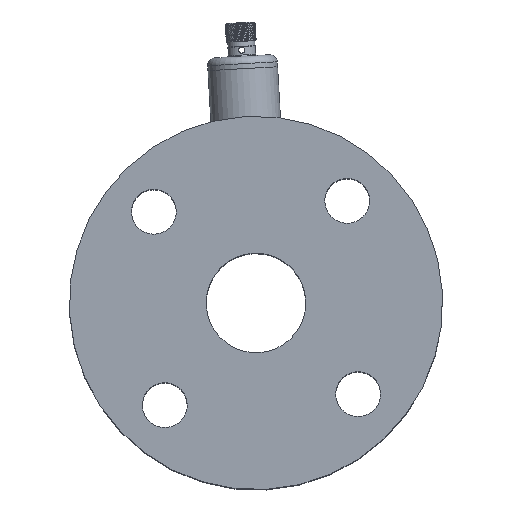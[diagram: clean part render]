
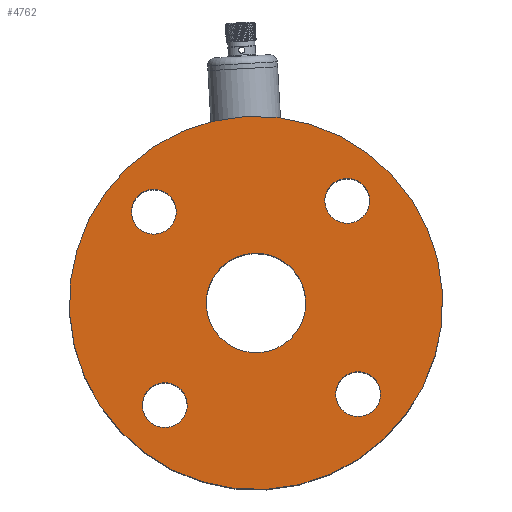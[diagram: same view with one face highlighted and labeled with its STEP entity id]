
A CAD part, top view. The second image highlights one B-rep face of the part: STEP entity #4762.
In plain terms, the highlighted planar face has unit normal (0, 0, 1).
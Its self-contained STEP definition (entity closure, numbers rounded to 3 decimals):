
#24 = AXIS2_PLACEMENT_3D ( 'NONE', #7111, #5321, #9101 ) ;
#119 = DIRECTION ( 'NONE',  ( 1., 0., 0. ) ) ;
#260 = EDGE_CURVE ( 'NONE', #7453, #4990, #9196, .T. ) ;
#279 = EDGE_CURVE ( 'NONE', #7266, #843, #7599, .T. ) ;
#552 = VERTEX_POINT ( 'NONE', #8678 ) ;
#565 = EDGE_CURVE ( 'NONE', #843, #7266, #5622, .T. ) ;
#657 = EDGE_CURVE ( 'NONE', #3826, #1299, #5827, .T. ) ;
#843 = VERTEX_POINT ( 'NONE', #3448 ) ;
#851 = CIRCLE ( 'NONE', #5844, 20. ) ;
#991 = CARTESIAN_POINT ( 'NONE',  ( -20., 0., 70. ) ) ;
#1083 = AXIS2_PLACEMENT_3D ( 'NONE', #5005, #2931, #4889 ) ;
#1299 = VERTEX_POINT ( 'NONE', #1614 ) ;
#1304 = DIRECTION ( 'NONE',  ( 1., 0., 0. ) ) ;
#1438 = AXIS2_PLACEMENT_3D ( 'NONE', #2183, #8607, #9722 ) ;
#1460 = CIRCLE ( 'NONE', #9404, 9. ) ;
#1474 = CARTESIAN_POINT ( 'NONE',  ( 38.891, -38.891, 70. ) ) ;
#1553 = FACE_BOUND ( 'NONE', #6531, .T. ) ;
#1613 = CIRCLE ( 'NONE', #24, 9. ) ;
#1614 = CARTESIAN_POINT ( 'NONE',  ( 75., 0., 70. ) ) ;
#1724 = PLANE ( 'NONE',  #8583 ) ;
#1854 = EDGE_CURVE ( 'NONE', #8691, #5562, #11181, .T. ) ;
#1937 = EDGE_CURVE ( 'NONE', #4269, #552, #1460, .T. ) ;
#2019 = ORIENTED_EDGE ( 'NONE', *, *, #279, .F. ) ;
#2183 = CARTESIAN_POINT ( 'NONE',  ( 0., 0., 70. ) ) ;
#2314 = DIRECTION ( 'NONE',  ( 0., 0., 1. ) ) ;
#2393 = CARTESIAN_POINT ( 'NONE',  ( 38.891, 38.891, 70. ) ) ;
#2472 = ORIENTED_EDGE ( 'NONE', *, *, #10658, .T. ) ;
#2637 = CARTESIAN_POINT ( 'NONE',  ( -47.891, -38.891, 70. ) ) ;
#2643 = DIRECTION ( 'NONE',  ( 0., 0., 1. ) ) ;
#2931 = DIRECTION ( 'NONE',  ( 0., 0., 1. ) ) ;
#2988 = CARTESIAN_POINT ( 'NONE',  ( 38.891, 38.891, 70. ) ) ;
#3177 = DIRECTION ( 'NONE',  ( 1., 0., 0. ) ) ;
#3301 = CARTESIAN_POINT ( 'NONE',  ( 29.891, -38.891, 70. ) ) ;
#3306 = CARTESIAN_POINT ( 'NONE',  ( -29.891, -38.891, 70. ) ) ;
#3448 = CARTESIAN_POINT ( 'NONE',  ( 47.891, 38.891, 70. ) ) ;
#3490 = DIRECTION ( 'NONE',  ( 0., 0., 1. ) ) ;
#3655 = CARTESIAN_POINT ( 'NONE',  ( -38.891, -38.891, 70. ) ) ;
#3826 = VERTEX_POINT ( 'NONE', #12147 ) ;
#3907 = EDGE_LOOP ( 'NONE', ( #11257, #9596 ) ) ;
#4269 = VERTEX_POINT ( 'NONE', #8942 ) ;
#4548 = FACE_BOUND ( 'NONE', #8572, .T. ) ;
#4583 = EDGE_LOOP ( 'NONE', ( #5023, #2019 ) ) ;
#4624 = EDGE_CURVE ( 'NONE', #552, #4269, #1613, .T. ) ;
#4762 = ADVANCED_FACE ( 'NONE', ( #8154, #4548, #8329, #10199, #12049, #1553 ), #1724, .T. ) ;
#4889 = DIRECTION ( 'NONE',  ( 1., 0., 0. ) ) ;
#4990 = VERTEX_POINT ( 'NONE', #3301 ) ;
#5005 = CARTESIAN_POINT ( 'NONE',  ( -38.891, -38.891, 70. ) ) ;
#5023 = ORIENTED_EDGE ( 'NONE', *, *, #565, .F. ) ;
#5044 = DIRECTION ( 'NONE',  ( 0., 0., 1. ) ) ;
#5056 = DIRECTION ( 'NONE',  ( 0., 0., 1. ) ) ;
#5292 = DIRECTION ( 'NONE',  ( 0., 0., 1. ) ) ;
#5321 = DIRECTION ( 'NONE',  ( 0., 0., 1. ) ) ;
#5345 = CARTESIAN_POINT ( 'NONE',  ( 20., 0., 70. ) ) ;
#5429 = DIRECTION ( 'NONE',  ( 1., 0., 0. ) ) ;
#5470 = AXIS2_PLACEMENT_3D ( 'NONE', #9832, #9955, #1304 ) ;
#5486 = DIRECTION ( 'NONE',  ( 1., 0., 0. ) ) ;
#5562 = VERTEX_POINT ( 'NONE', #2637 ) ;
#5622 = CIRCLE ( 'NONE', #9784, 9. ) ;
#5827 = CIRCLE ( 'NONE', #1438, 75. ) ;
#5844 = AXIS2_PLACEMENT_3D ( 'NONE', #10849, #2314, #10048 ) ;
#6090 = ORIENTED_EDGE ( 'NONE', *, *, #6982, .F. ) ;
#6160 = ORIENTED_EDGE ( 'NONE', *, *, #260, .F. ) ;
#6531 = EDGE_LOOP ( 'NONE', ( #8917, #6090 ) ) ;
#6675 = ORIENTED_EDGE ( 'NONE', *, *, #657, .T. ) ;
#6730 = DIRECTION ( 'NONE',  ( 1., 0., 0. ) ) ;
#6982 = EDGE_CURVE ( 'NONE', #12004, #10481, #851, .T. ) ;
#7111 = CARTESIAN_POINT ( 'NONE',  ( -38.891, 38.891, 70. ) ) ;
#7116 = CARTESIAN_POINT ( 'NONE',  ( 47.891, -38.891, 70. ) ) ;
#7257 = CIRCLE ( 'NONE', #5470, 75. ) ;
#7266 = VERTEX_POINT ( 'NONE', #11397 ) ;
#7453 = VERTEX_POINT ( 'NONE', #7116 ) ;
#7599 = CIRCLE ( 'NONE', #8587, 9. ) ;
#7837 = CARTESIAN_POINT ( 'NONE',  ( 38.891, -38.891, 70. ) ) ;
#7853 = ORIENTED_EDGE ( 'NONE', *, *, #1854, .F. ) ;
#8154 = FACE_BOUND ( 'NONE', #3907, .T. ) ;
#8163 = EDGE_CURVE ( 'NONE', #5562, #8691, #8837, .T. ) ;
#8213 = CARTESIAN_POINT ( 'NONE',  ( 0., 0., 70. ) ) ;
#8276 = DIRECTION ( 'NONE',  ( 0., 0., 1. ) ) ;
#8329 = FACE_BOUND ( 'NONE', #11366, .T. ) ;
#8572 = EDGE_LOOP ( 'NONE', ( #7853, #9231 ) ) ;
#8583 = AXIS2_PLACEMENT_3D ( 'NONE', #8213, #3490, #5429 ) ;
#8587 = AXIS2_PLACEMENT_3D ( 'NONE', #2393, #5292, #9249 ) ;
#8607 = DIRECTION ( 'NONE',  ( 0., 0., 1. ) ) ;
#8678 = CARTESIAN_POINT ( 'NONE',  ( -47.891, 38.891, 70. ) ) ;
#8691 = VERTEX_POINT ( 'NONE', #3306 ) ;
#8837 = CIRCLE ( 'NONE', #1083, 9. ) ;
#8917 = ORIENTED_EDGE ( 'NONE', *, *, #9325, .F. ) ;
#8942 = CARTESIAN_POINT ( 'NONE',  ( -29.891, 38.891, 70. ) ) ;
#9051 = AXIS2_PLACEMENT_3D ( 'NONE', #7837, #5056, #119 ) ;
#9081 = DIRECTION ( 'NONE',  ( 1., 0., 0. ) ) ;
#9101 = DIRECTION ( 'NONE',  ( 1., 0., 0. ) ) ;
#9196 = CIRCLE ( 'NONE', #9980, 9. ) ;
#9212 = DIRECTION ( 'NONE',  ( 1., 0., 0. ) ) ;
#9231 = ORIENTED_EDGE ( 'NONE', *, *, #8163, .F. ) ;
#9249 = DIRECTION ( 'NONE',  ( 1., 0., 0. ) ) ;
#9325 = EDGE_CURVE ( 'NONE', #10481, #12004, #11215, .T. ) ;
#9404 = AXIS2_PLACEMENT_3D ( 'NONE', #10629, #5044, #6730 ) ;
#9409 = EDGE_LOOP ( 'NONE', ( #2472, #6675 ) ) ;
#9596 = ORIENTED_EDGE ( 'NONE', *, *, #4624, .F. ) ;
#9722 = DIRECTION ( 'NONE',  ( 1., 0., 0. ) ) ;
#9784 = AXIS2_PLACEMENT_3D ( 'NONE', #2988, #11463, #3177 ) ;
#9832 = CARTESIAN_POINT ( 'NONE',  ( 0., 0., 70. ) ) ;
#9955 = DIRECTION ( 'NONE',  ( 0., 0., 1. ) ) ;
#9980 = AXIS2_PLACEMENT_3D ( 'NONE', #1474, #10926, #9081 ) ;
#10048 = DIRECTION ( 'NONE',  ( 1., 0., 0. ) ) ;
#10199 = FACE_BOUND ( 'NONE', #4583, .T. ) ;
#10480 = EDGE_CURVE ( 'NONE', #4990, #7453, #10623, .T. ) ;
#10481 = VERTEX_POINT ( 'NONE', #991 ) ;
#10623 = CIRCLE ( 'NONE', #9051, 9. ) ;
#10629 = CARTESIAN_POINT ( 'NONE',  ( -38.891, 38.891, 70. ) ) ;
#10658 = EDGE_CURVE ( 'NONE', #1299, #3826, #7257, .T. ) ;
#10837 = AXIS2_PLACEMENT_3D ( 'NONE', #11173, #2643, #5486 ) ;
#10849 = CARTESIAN_POINT ( 'NONE',  ( 0., 0., 70. ) ) ;
#10926 = DIRECTION ( 'NONE',  ( 0., 0., 1. ) ) ;
#11173 = CARTESIAN_POINT ( 'NONE',  ( 0., 0., 70. ) ) ;
#11181 = CIRCLE ( 'NONE', #11979, 9. ) ;
#11215 = CIRCLE ( 'NONE', #10837, 20. ) ;
#11257 = ORIENTED_EDGE ( 'NONE', *, *, #1937, .F. ) ;
#11366 = EDGE_LOOP ( 'NONE', ( #6160, #12275 ) ) ;
#11397 = CARTESIAN_POINT ( 'NONE',  ( 29.891, 38.891, 70. ) ) ;
#11463 = DIRECTION ( 'NONE',  ( 0., 0., 1. ) ) ;
#11979 = AXIS2_PLACEMENT_3D ( 'NONE', #3655, #8276, #9212 ) ;
#12004 = VERTEX_POINT ( 'NONE', #5345 ) ;
#12049 = FACE_OUTER_BOUND ( 'NONE', #9409, .T. ) ;
#12147 = CARTESIAN_POINT ( 'NONE',  ( -75., 0., 70. ) ) ;
#12275 = ORIENTED_EDGE ( 'NONE', *, *, #10480, .F. ) ;
